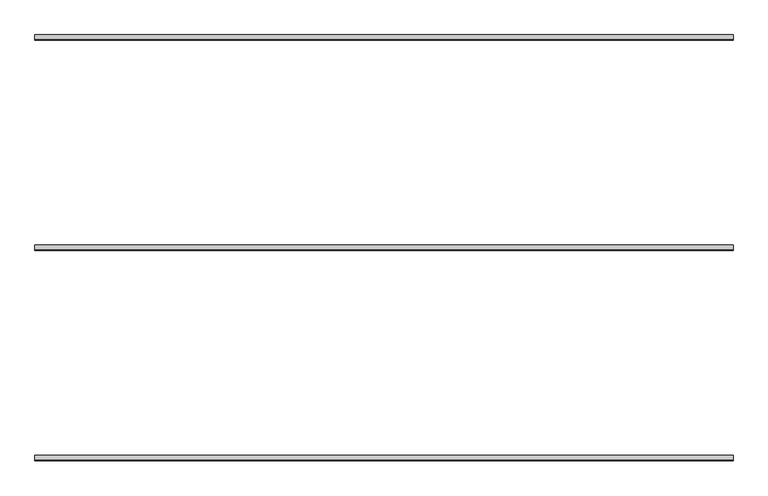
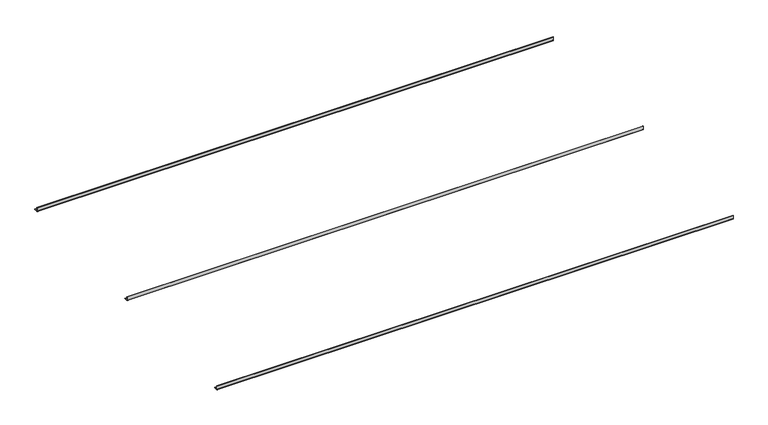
"""IFC4 building model written with IfcOpenShell, lengths in millimetres: proxy geometry, durlum_S7KS : durlum_S7KS."""

import ifcopenshell
import ifcopenshell.guid

model = None  # the IFC model being written
_history = None  # IfcOwnerHistory: only IFC2X3 demands one
_inside = {}  # id of a spatial element -> (the spatial element, [elements in it])
_under = {}  # id of a project, library or spatial element -> (it, [spatial elements below it])
_declared = {}  # id of a project -> (the project, [libraries it declares])
_typed = {}  # id of a type object -> (the type object, [elements of that type])
_made_of = {}  # id of a material, layer set ... -> (it, [elements and type objects made of it])


def new_model(schema):
    """Start an empty IFC model of exactly this schema.

    Asked for "IFC4X3", IfcOpenShell would pick the latest addendum, in which some entities
    have other attributes; the version numbers below select the first issue.
    IFC2X3 requires an IfcOwnerHistory on every rooted entity: one is made here for all.
    """
    global model, _history
    if schema == "IFC4X3":
        model = ifcopenshell.file(schema_version=(4, 3, 0, 0))
    else:
        model = ifcopenshell.file(schema=schema)
    _inside.clear()
    _under.clear()
    _declared.clear()
    _typed.clear()
    _made_of.clear()
    _history = None
    if model.schema == "IFC2X3":
        org = make("IfcOrganization", Name="unknown")
        user = make(
            "IfcPersonAndOrganization",
            ThePerson=make("IfcPerson", FamilyName="unknown"),
            TheOrganization=org,
        )
        app = make(
            "IfcApplication",
            ApplicationDeveloper=org,
            Version="unknown",
            ApplicationFullName="unknown",
            ApplicationIdentifier="unknown",
        )
        _history = make(
            "IfcOwnerHistory",
            OwningUser=user,
            OwningApplication=app,
            ChangeAction="ADDED",
            CreationDate=0,
        )
    return model


def make(cls, **values):
    """One entity of the class cls with the attributes given. An attribute that is None is left unset."""
    return model.create_entity(
        cls, **{name: value for name, value in values.items() if value is not None}
    )


def rooted(cls, **values):
    """An entity with a GlobalId (a new one), such as an element, a storey or a relation."""
    return make(cls, GlobalId=ifcopenshell.guid.new(), OwnerHistory=_history, **values)


def si_unit(unit_type, name, prefix=None):
    """IfcSIUnit, for example si_unit("LENGTHUNIT", "METRE", prefix="MILLI")."""
    return make("IfcSIUnit", UnitType=unit_type, Prefix=prefix, Name=name)


def assignment(units):
    """IfcUnitAssignment: the units of a project."""
    return None if units is None else make("IfcUnitAssignment", Units=units)


def point(xyz):
    """IfcCartesianPoint."""
    return None if xyz is None else make("IfcCartesianPoint", Coordinates=xyz)


def direction(xyz):
    """IfcDirection."""
    return None if xyz is None else make("IfcDirection", DirectionRatios=xyz)


def frame(location, z_axis=None, x_axis=None):
    """IfcAxis2Placement3D, a coordinate frame: its origin and axes. An axis left out is left unset."""
    return make(
        "IfcAxis2Placement3D",
        Location=point(location),
        Axis=direction(z_axis),
        RefDirection=direction(x_axis),
    )


def frame_2d(location, x_axis=None):
    """IfcAxis2Placement2D, a coordinate frame in the plane: its origin and x axis."""
    return make(
        "IfcAxis2Placement2D", Location=point(location), RefDirection=direction(x_axis)
    )


def origin():
    """The frame at (0, 0, 0) with its axes left unset."""
    return frame((0.0, 0.0, 0.0))


def place(relative_to, where):
    """IfcLocalPlacement: puts the frame where relative to a parent placement (None: the world)."""
    return make(
        "IfcLocalPlacement", PlacementRelTo=relative_to, RelativePlacement=where
    )


def context(
    kind, dimensions, precision=None, world=None, true_north=None, identifier=None
):
    """IfcGeometricRepresentationContext, for example the 3D "Model" context."""
    return make(
        "IfcGeometricRepresentationContext",
        ContextIdentifier=identifier,
        ContextType=kind,
        CoordinateSpaceDimension=dimensions,
        Precision=precision,
        WorldCoordinateSystem=world,
        TrueNorth=true_north,
    )


def project(units=None, contexts=None):
    """IfcProject with its units and contexts."""
    return rooted(
        "IfcProject",
        Name="project",
        RepresentationContexts=contexts,
        UnitsInContext=assignment(units),
    )


def spatial(cls, under=None, at=None, **own):
    """A site, building, storey or space (cls), placed at a placement, below another one or the project."""
    s = rooted(cls, ObjectPlacement=at, **own)
    if under is not None:
        _under.setdefault(under.id(), (under, []))[1].append(s)
    return s


def polyline(points):
    """IfcPolyline through the points."""
    return make("IfcPolyline", Points=[point(p) for p in points])


def circle_curve(where, radius):
    """IfcCircle in the frame where."""
    return make("IfcCircle", Position=where, Radius=radius)


def trimmed(basis, trim1, trim2, sense, master):
    """IfcTrimmedCurve: the piece of a basis curve between two trims."""
    return make(
        "IfcTrimmedCurve",
        BasisCurve=basis,
        Trim1=trim1,
        Trim2=trim2,
        SenseAgreement=sense,
        MasterRepresentation=master,
    )


def segment(curve, same_sense, transition):
    """IfcCompositeCurveSegment."""
    return make(
        "IfcCompositeCurveSegment",
        Transition=transition,
        SameSense=same_sense,
        ParentCurve=curve,
    )


def composite_curve(segments, self_intersect=None):
    """IfcCompositeCurve: segments joined end to end."""
    return make("IfcCompositeCurve", Segments=segments, SelfIntersect=self_intersect)


def outline(outer, holes=None, kind="AREA"):
    """IfcArbitraryClosedProfileDef: a profile drawn as a closed curve; with holes, ...WithVoids."""
    if holes is None:
        return make("IfcArbitraryClosedProfileDef", ProfileType=kind, OuterCurve=outer)
    return make(
        "IfcArbitraryProfileDefWithVoids",
        ProfileType=kind,
        OuterCurve=outer,
        InnerCurves=holes,
    )


def extrude(swept, where, along, depth):
    """IfcExtrudedAreaSolid: the profile swept, set in the frame where, extruded along a direction by depth."""
    return make(
        "IfcExtrudedAreaSolid",
        SweptArea=swept,
        Position=where,
        ExtrudedDirection=direction(along),
        Depth=depth,
    )


def shape(context_of_items, identifier, shape_type, items):
    """IfcShapeRepresentation: the items that make up one representation, for example the "Body"."""
    return make(
        "IfcShapeRepresentation",
        ContextOfItems=context_of_items,
        RepresentationIdentifier=identifier,
        RepresentationType=shape_type,
        Items=items,
    )


def source(mapping_origin, context_of_items, identifier, shape_type, items):
    """IfcRepresentationMap: a shape defined once, which mapped items show again and again."""
    return make(
        "IfcRepresentationMap",
        MappingOrigin=mapping_origin,
        MappedRepresentation=shape(context_of_items, identifier, shape_type, items),
    )


def transform(
    local_origin,
    x_axis=None,
    y_axis=None,
    z_axis=None,
    scale=None,
    scale2=None,
    scale3=None,
    uniform=True,
):
    """IfcCartesianTransformationOperator3D, or its non-uniform kind. x_axis, y_axis, z_axis: its Axis1, 2, 3."""
    if uniform:
        return make(
            "IfcCartesianTransformationOperator3D",
            Axis1=direction(x_axis),
            Axis2=direction(y_axis),
            LocalOrigin=point(local_origin),
            Scale=scale,
            Axis3=direction(z_axis),
        )
    return make(
        "IfcCartesianTransformationOperator3DnonUniform",
        Axis1=direction(x_axis),
        Axis2=direction(y_axis),
        LocalOrigin=point(local_origin),
        Scale=scale,
        Axis3=direction(z_axis),
        Scale2=scale2,
        Scale3=scale3,
    )


def mapped(mapping_source, mapping_target):
    """IfcMappedItem: shows the shape of a source again, moved by a transform."""
    return make(
        "IfcMappedItem", MappingSource=mapping_source, MappingTarget=mapping_target
    )


def made_of(thing, what):
    """Note that an element or type object is made of a material, layer set ...; save() writes the relation."""
    if what is not None:
        _made_of.setdefault(what.id(), (what, []))[1].append(thing)
    return thing


def element(
    cls,
    number,
    at=None,
    inside=None,
    cuts=None,
    type_object=None,
    material=None,
    context=None,
    identifier="Body",
    shape_type=None,
    held_by="IfcProductDefinitionShape",
    body=None,
    shapes=None,
    **own,
):
    """One element of the class cls, such as IfcWall. Its Tag is "e" and its number.

    at: its placement. inside: the storey or other place that contains it. cuts: it is an
    opening in that element (IfcRelVoidsElement). A single representation is given by context,
    identifier, shape_type and body (its items); several are given by shapes. held_by: the class
    of the entity that holds the representations. save() writes the other relations.
    """
    e = rooted(cls, Tag="e%d" % number, ObjectPlacement=at, **own)
    if body is not None:
        shapes = [shape(context, identifier, shape_type, body)]
    if shapes is not None:
        e.Representation = make(held_by, Representations=shapes)
    if inside is not None:
        _inside.setdefault(inside.id(), (inside, []))[1].append(e)
    if cuts is not None:
        rooted(
            "IfcRelVoidsElement", RelatingBuildingElement=cuts, RelatedOpeningElement=e
        )
    if type_object is not None:
        _typed.setdefault(type_object.id(), (type_object, []))[1].append(e)
    return made_of(e, material)


def aggregate(whole, parts):
    """IfcRelAggregates: a whole, such as a stair, and the parts it consists of."""
    return rooted("IfcRelAggregates", RelatingObject=whole, RelatedObjects=parts)


def save(model, path):
    """Write the relations noted so far, then the file.

    IfcRelAggregates (storeys below a building ...), IfcRelContainedInSpatialStructure (elements
    in a storey), IfcRelDefinesByType, IfcRelAssociatesMaterial and IfcRelDeclares: one each for
    every whole, place, type object, material and project.
    """
    for whole, parts in _under.values():
        aggregate(whole, parts)
    for where, things in _inside.values():
        rooted(
            "IfcRelContainedInSpatialStructure",
            RelatedElements=things,
            RelatingStructure=where,
        )
    for kind, things in _typed.values():
        rooted("IfcRelDefinesByType", RelatedObjects=things, RelatingType=kind)
    for what, things in _made_of.values():
        rooted("IfcRelAssociatesMaterial", RelatedObjects=things, RelatingMaterial=what)
    for by, libraries in _declared.values():
        rooted("IfcRelDeclares", RelatingContext=by, RelatedDefinitions=libraries)
    model.write(path)


def generic_models_0c616ac7(model_context):
    return source(origin(), model_context, "Body", "SweptSolid", [
        extrude(outline(composite_curve([segment(polyline([(2.0, 2192.9), (2.0, 2167.0)]), True, "CONTINUOUS"), segment(trimmed(circle_curve(frame_2d((4.0, 2167.0)), 2.0), [point((2.0, 2167.0))], [point((4.0, 2165.0))], True, "CARTESIAN"), True, "CONTINUOUS"), segment(polyline([(4.0, 2165.0), (29.9, 2165.0), (29.9, 2163.0), (4.0, 2163.0)]), True, "CONTINUOUS"), segment(trimmed(circle_curve(frame_2d((4.0, 2167.0)), 4.0), [point((4.0, 2163.0))], [point((0.0, 2167.0))], False, "CARTESIAN"), True, "CONTINUOUS"), segment(polyline([(0.0, 2167.0), (0.0, 2192.9), (2.0, 2192.9)]), True, "CONTINUOUS")], self_intersect=False)), frame((-1990.0, 0.0, 0.0), z_axis=(1.0, 0.0, 0.0), x_axis=(0.0, 1.0, 0.0)), (0.0, 0.0, 1.0), 3980.0),
        extrude(outline(composite_curve([segment(polyline([(1202.0, 2192.9), (1202.0, 2167.0)]), True, "CONTINUOUS"), segment(trimmed(circle_curve(frame_2d((1204.0, 2167.0)), 2.0), [point((1202.0, 2167.0))], [point((1204.0, 2165.0))], True, "CARTESIAN"), True, "CONTINUOUS"), segment(polyline([(1204.0, 2165.0), (1229.9, 2165.0), (1229.9, 2163.0), (1204.0, 2163.0)]), True, "CONTINUOUS"), segment(trimmed(circle_curve(frame_2d((1204.0, 2167.0)), 4.0), [point((1204.0, 2163.0))], [point((1200.0, 2167.0))], False, "CARTESIAN"), True, "CONTINUOUS"), segment(polyline([(1200.0, 2167.0), (1200.0, 2192.9), (1202.0, 2192.9)]), True, "CONTINUOUS")], self_intersect=False)), frame((-1990.0, 0.0, 0.0), z_axis=(1.0, 0.0, 0.0), x_axis=(0.0, 1.0, 0.0)), (0.0, 0.0, 1.0), 3980.0),
        extrude(outline(composite_curve([segment(polyline([(-1198.0, 2192.9), (-1198.0, 2167.0)]), True, "CONTINUOUS"), segment(trimmed(circle_curve(frame_2d((-1196.0, 2167.0)), 2.0), [point((-1198.0, 2167.0))], [point((-1196.0, 2165.0))], True, "CARTESIAN"), True, "CONTINUOUS"), segment(polyline([(-1196.0, 2165.0), (-1170.1, 2165.0), (-1170.1, 2163.0), (-1196.0, 2163.0)]), True, "CONTINUOUS"), segment(trimmed(circle_curve(frame_2d((-1196.0, 2167.0)), 4.0), [point((-1196.0, 2163.0))], [point((-1200.0, 2167.0))], False, "CARTESIAN"), True, "CONTINUOUS"), segment(polyline([(-1200.0, 2167.0), (-1200.0, 2192.9), (-1198.0, 2192.9)]), True, "CONTINUOUS")], self_intersect=False)), frame((-1990.0, 0.0, 0.0), z_axis=(1.0, 0.0, 0.0), x_axis=(0.0, 1.0, 0.0)), (0.0, 0.0, 1.0), 3980.0),
    ])


if __name__ == "__main__":
    model = new_model("IFC4")
    model_context = context("Model", 3, world=origin())
    ifc_project = project(units=[si_unit("LENGTHUNIT", "METRE", prefix="MILLI")], contexts=[model_context])
    site = spatial("IfcSite", under=ifc_project)
    building = spatial("IfcBuilding", under=site)
    placement = place(None, origin())
    generic_models_shape = generic_models_0c616ac7(model_context)
    element("IfcBuildingElementProxy", 1, Name="durlum_S7KS : durlum_S7KS", ObjectType="durlum_S7KS : durlum_S7KS", at=placement, inside=building, context=model_context, shape_type="MappedRepresentation", body=[
        mapped(generic_models_shape, transform((0.0, 0.0, 0.0), x_axis=(1.0, 0.0, 0.0), y_axis=(0.0, 1.0, 0.0), z_axis=(0.0, 0.0, 1.0))),
    ])
    save(model, "model.ifc")
